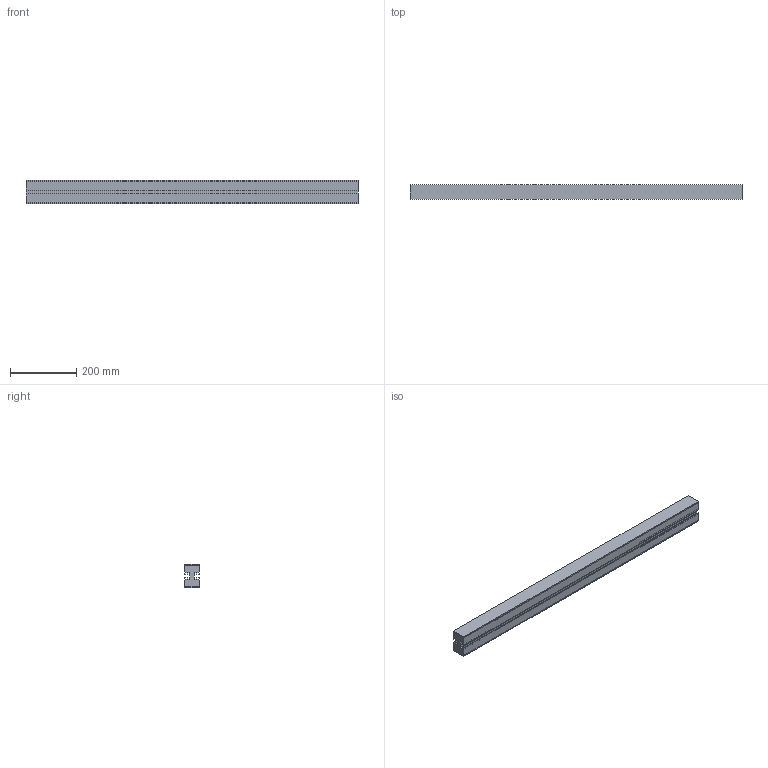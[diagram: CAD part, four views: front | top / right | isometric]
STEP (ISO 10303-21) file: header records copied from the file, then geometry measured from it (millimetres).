
FILE_DESCRIPTION(/* description */ ('Führungsprofil FS'),/* implementation_level */ '2;1');
FILE_NAME(/* name */ 'T:\vdz0\Step Daten Website\modulflex FS-System\Führungsprofil\FSCB L-1000.stp',/* time_stamp */ '2024-08-22T10:29:13+02:00',/* author */ ('vdz0'),/* organization */ ('modular automation GmbH'),/* preprocessor_version */ 'ST-DEVELOPER v18.1',/* originating_system */ 'Autodesk Inventor 2021',/* authorisation */ '');
FILE_SCHEMA (('CONFIG_CONTROL_DESIGN'));
Length unit declared in the file: millimetre
Products named in the file (1): FSCB L-1000
Bounding box: 1000 x 45 x 72.2 mm (x, y, z)
Volume: 2686900 mm3; surface area: 561573.8 mm2
Topology: 3 solids, 3 shells, 50 faces, 132 edges, 88 vertices
Faces by surface type: plane 50
Entity records: 1605 total; most frequent: CARTESIAN_POINT 271, ORIENTED_EDGE 264, DIRECTION 234, LINE 132, VECTOR 132, EDGE_CURVE 132, VERTEX_POINT 88, AXIS2_PLACEMENT_3D 51
